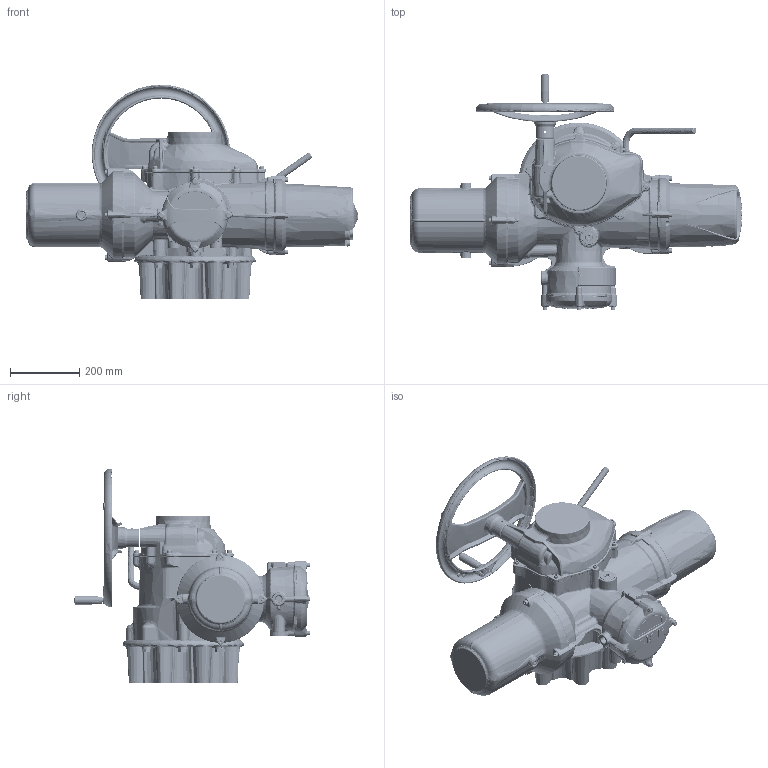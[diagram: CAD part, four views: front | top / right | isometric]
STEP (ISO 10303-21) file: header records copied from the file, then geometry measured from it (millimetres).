
FILE_DESCRIPTION( ( 'Unknown' ), '1' );
FILE_NAME( 'S:/Release/Datasheets for P.E/size45 models for website/II40_SHW_F30_A-1.stp', 'Unknown', ( 'Unknown' ), ( 'Unknown' ), 'PSStep 15.0.49', 'Unknown', ' ' );
FILE_SCHEMA( ( 'AUTOMOTIVE_DESIGN { 1 0 10303 214 1 1 1 1 }' ) );
Length unit declared in the file: millimetre
Products named in the file (9): II45-01-std
Bounding box: 958.3 x 680.05 x 620 mm (x, y, z)
Volume: 940284 mm3; surface area: 1970741.2 mm2
Topology: 73 solids, 75 shells, 7570 faces, 18656 edges, 10996 vertices
Faces by surface type: bspline 2720, plane 1946, cylinder 1116, torus 745, cone 682, sphere 214, extrusion 108, revolution 21, offset 18
Full cylindrical faces by diameter (mm): 1.152 x1, 3 x10, 3.5 x1, 6 x5, 6.45 x4, 6.47 x4, 6.5 x1, 6.647 x8, 7 x4, 7.6 x4, 8 x21, 8.1 x1, 8.2 x1, 8.3 x2, 8.376 x1, 8.5 x4, 9.7 x1, 10 x1, 12 x2, 12.1 x1, 13 x12, 13.25 x7, 13.53 x10, 13.548 x8, 13.55 x18, 13.835 x20, 16 x29, 16.75 x1, 17 x16, 17.294 x18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
Entity records: 725033 total; most frequent: CARTESIAN_POINT 513490, ORIENTED_EDGE 34654, DIRECTION 26207, EDGE_CURVE 17327, AXIS2_PLACEMENT_3D 11132, VERTEX_POINT 10643, EDGE_LOOP 8411, FACE_OUTER_BOUND 7950
